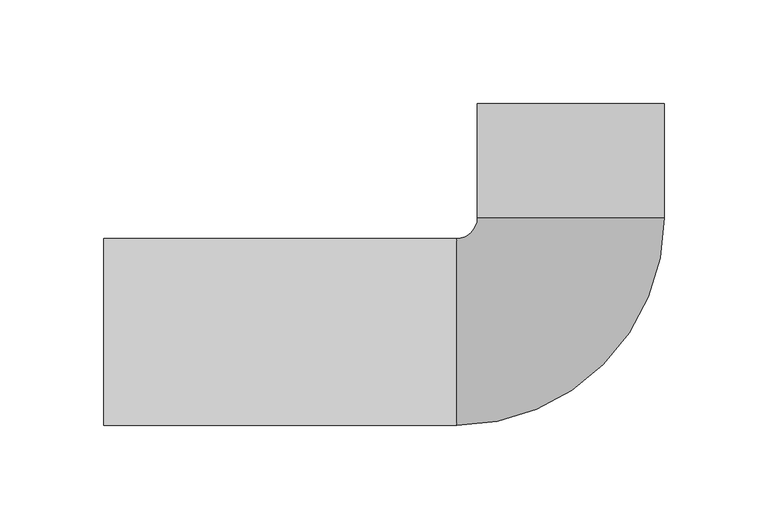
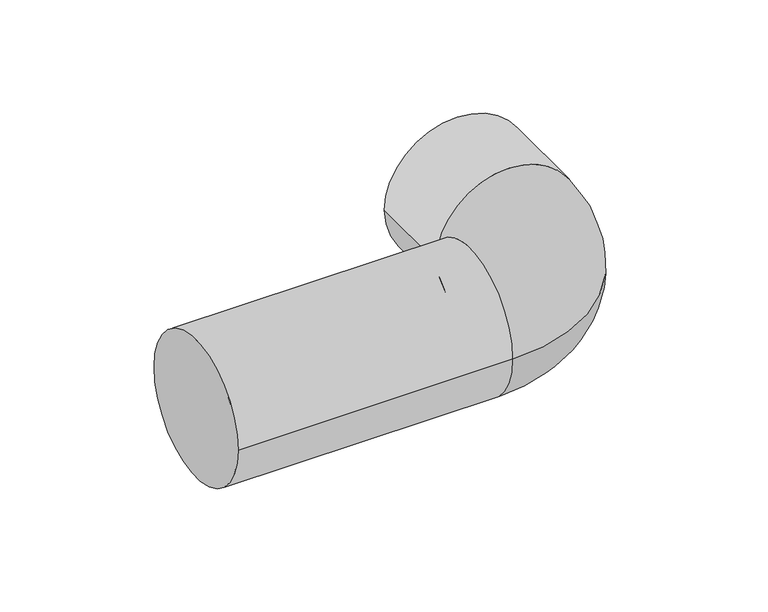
"""IFC4 building model written with IfcOpenShell, lengths in millimetres: pipe fitting geometry, NLRS_52_PIF_UN_aansluitbocht 90° voor wand-wc_geb : DN90-100 / ø90-110."""

from ifc_helpers import new_model, si_unit, point, frame, origin, place, context, project, spatial, circle_curve, ellipse_curve, trimmed, source, transform, mapped, element, save
from ifc_brep_helpers import plane_surface, cylinder_surface, revolved_surface, advanced_brep


def pipe_fitting_c1c2389f(model_context):
    return source(origin(), model_context, "Body", "AdvancedBrep", [
        advanced_brep(
        [(45.0, 110.0, 0.0), (-45.0, 110.0, 0.0), (-45.0, 55.0, 0.0), (0.0, 55.0, 45.0), (45.0, 55.0, 0.0), (0.0, 55.0, -45.0), (-55.0, 45.0, 0.0), (-55.0, -45.0, 0.0), (-225.0, -45.0, 0.0), (-225.0, 45.0, 0.0)],
        [
            (0, 1, circle_curve(frame((0.0, 110.0, 0.0), z_axis=(0.0, 1.0, 0.0), x_axis=(-1.0, 0.0, 0.0)), 45.0)),
            (1, 0, circle_curve(frame((0.0, 110.0, 0.0), z_axis=(0.0, 1.0, 0.0), x_axis=(-1.0, 0.0, 0.0)), 45.0)),
            (1, 2),
            (2, 3, circle_curve(frame((0.0, 55.0, 0.0), z_axis=(0.0, 1.0, 0.0), x_axis=(-1.0, 0.0, 0.0)), 45.0)),
            (3, 4, circle_curve(frame((0.0, 55.0, 0.0), z_axis=(0.0, 1.0, 0.0), x_axis=(-1.0, 0.0, 0.0)), 45.0)),
            (4, 0),
            (4, 5, circle_curve(frame((0.0, 55.0, 0.0), z_axis=(0.0, 1.0, 0.0), x_axis=(-1.0, 0.0, 0.0)), 45.0)),
            (5, 2, circle_curve(frame((0.0, 55.0, 0.0), z_axis=(0.0, 1.0, 0.0), x_axis=(-1.0, 0.0, 0.0)), 45.0)),
            (2, 6, circle_curve(frame((-55.0, 55.0, 0.0), z_axis=(0.0, 0.0, -1.0), x_axis=(0.0, -1.0, 0.0)), 10.0)),
            (6, 7, circle_curve(frame((-55.0, 0.0, 0.0), z_axis=(1.0, 0.0, 0.0), x_axis=(0.0, 1.0, 0.0)), 45.0)),
            (7, 4, circle_curve(frame((-55.0, 55.0, 0.0), z_axis=(0.0, 0.0, 1.0), x_axis=(0.0, -1.0, 0.0)), 100.0)),
            (7, 6, circle_curve(frame((-55.0, 0.0, 0.0), z_axis=(1.0, 0.0, 0.0), x_axis=(0.0, 1.0, 0.0)), 45.0)),
            (8, 9, circle_curve(frame((-225.0, 0.0, 0.0), z_axis=(-1.0, 0.0, 0.0), x_axis=(0.0, 1.0, 0.0)), 45.0)),
            (9, 8, circle_curve(frame((-225.0, 0.0, 0.0), z_axis=(-1.0, 0.0, 0.0), x_axis=(0.0, 1.0, 0.0)), 45.0)),
            (9, 6),
            (7, 8),
        ],
        [
            plane_surface(frame((0.0, 110.0, 0.0), z_axis=(0.0, 1.0, 0.0), x_axis=(0.0, 0.0, 1.0))),
            cylinder_surface(frame((0.0, 55.0, 0.0), z_axis=(0.0, -1.0, 0.0), x_axis=(-1.0, 0.0, 0.0)), 45.0),
            revolved_surface(trimmed(ellipse_curve(frame((-55.0, 0.0, 0.0), z_axis=(-1.0, 0.0, 0.0), x_axis=(0.0, 1.0, 0.0)), 45.0, 45.0), [point((-55.0, -45.0, 0.0))], [point((-55.0, 45.0, 0.0))], True, "CARTESIAN"), (-55.0, 55.0, 0.0), (0.0, 0.0, 1.0)),
            revolved_surface(trimmed(ellipse_curve(frame((-55.0, 0.0, 0.0), z_axis=(-1.0, 0.0, 0.0), x_axis=(0.0, 1.0, 0.0)), 45.0, 45.0), [point((-55.0, 45.0, 0.0))], [point((-55.0, -45.0, 0.0))], True, "CARTESIAN"), (-55.0, 55.0, 0.0), (0.0, 0.0, 1.0)),
            plane_surface(frame((-225.0, 45.0, 0.0), z_axis=(-1.0, 0.0, 0.0), x_axis=(0.0, 0.0, -1.0))),
            cylinder_surface(frame((-225.0, 0.0, 0.0), z_axis=(1.0, 0.0, 0.0), x_axis=(0.0, 1.0, 0.0)), 45.0),
        ],
        [
            (0, [[1, 2]]),
            (1, [[-2, 3, 4, 5, 6]]),
            (1, [[-1, -6, 7, 8, -3]]),
            (2, [[9, 10, 11, -5, -4]]),
            (3, [[-9, -8, -7, -11, 12]]),
            (4, [[13, 14]]),
            (5, [[-14, 15, -12, 16]]),
            (5, [[-13, -16, -10, -15]]),
        ],
    ),
    ])


if __name__ == "__main__":
    model = new_model("IFC4")
    model_context = context("Model", 3, world=origin())
    ifc_project = project(units=[si_unit("LENGTHUNIT", "METRE", prefix="MILLI")], contexts=[model_context])
    site = spatial("IfcSite", under=ifc_project)
    building = spatial("IfcBuilding", under=site)
    placement = place(None, origin())
    pipe_fitting_shape = pipe_fitting_c1c2389f(model_context)
    element("IfcPipeFitting", 1, ObjectType="NLRS_52_PIF_UN_aansluitbocht 90° voor wand-wc_geb : DN90-100 / ø90-110", at=placement, inside=building, context=model_context, shape_type="MappedRepresentation", body=[
        mapped(pipe_fitting_shape, transform((0.0, 0.0, 0.0), x_axis=(1.0, 0.0, 0.0), y_axis=(0.0, 1.0, 0.0), z_axis=(0.0, 0.0, 1.0))),
    ])
    save(model, "model.ifc")
